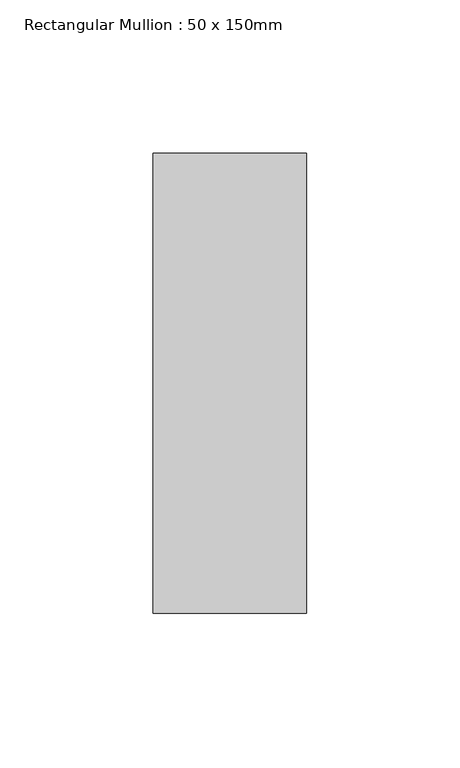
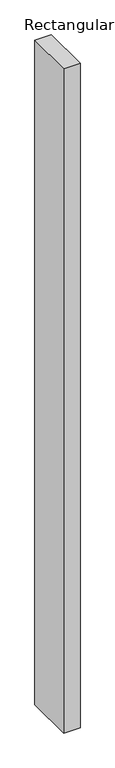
"""IFC4 building model written with IfcOpenShell, lengths in millimetres: member geometry, Rectangular Mullion : 50 x 150mm."""

from ifc_helpers import new_model, si_unit, frame, origin, place, context, project, spatial, polyline, outline, extrude, source, transform, mapped, element, save


def rectangular_mullion_50_x_150mm_642c3999(model_context):
    return source(origin(), model_context, "Body", "SweptSolid", [
        extrude(outline(polyline([(25.0, 75.0), (25.0, -75.0), (-25.0, -75.0), (-25.0, 75.0), (25.0, 75.0)])), frame((0.0, 0.0, -2125.4869111), z_axis=(0.0, 0.0, 1.0), x_axis=(1.0, 0.0, 0.0)), (0.0, 0.0, 1.0), 2125.4869111),
    ])


if __name__ == "__main__":
    model = new_model("IFC4")
    model_context = context("Model", 3, world=origin())
    ifc_project = project(units=[si_unit("LENGTHUNIT", "METRE", prefix="MILLI")], contexts=[model_context])
    site = spatial("IfcSite", under=ifc_project)
    building = spatial("IfcBuilding", under=site)
    placement = place(None, origin())
    rectangular_mullion_50_x_150mm_shape = rectangular_mullion_50_x_150mm_642c3999(model_context)
    element("IfcMember", 1, ObjectType="Rectangular Mullion : 50 x 150mm", at=placement, inside=building, context=model_context, shape_type="MappedRepresentation", body=[
        mapped(rectangular_mullion_50_x_150mm_shape, transform((0.0, 0.0, 0.0), x_axis=(1.0, 0.0, 0.0), y_axis=(0.0, 1.0, 0.0), z_axis=(0.0, 0.0, 1.0))),
    ])
    save(model, "model.ifc")
